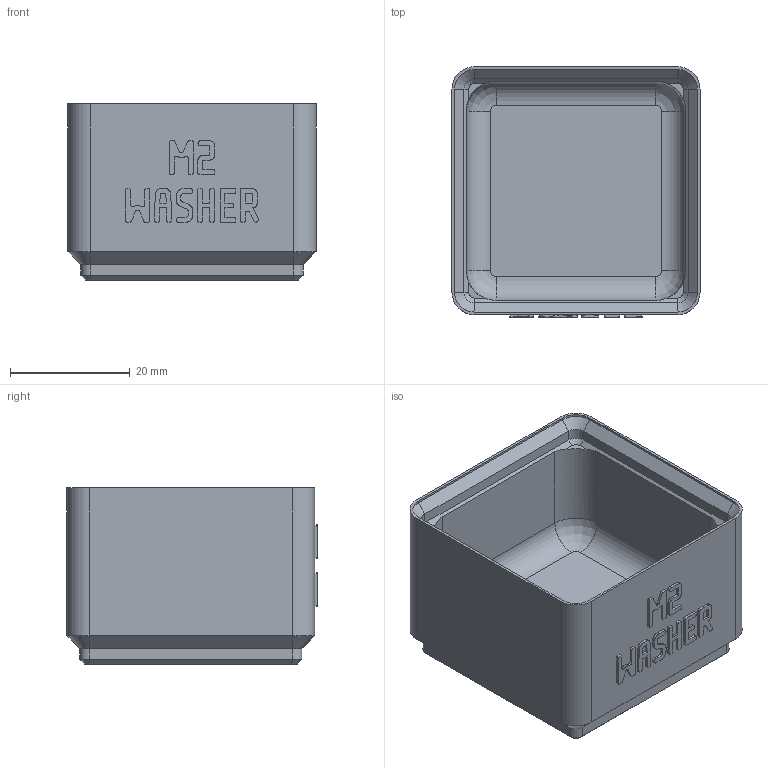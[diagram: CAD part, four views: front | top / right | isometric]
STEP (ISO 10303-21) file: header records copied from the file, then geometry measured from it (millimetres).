
FILE_DESCRIPTION(('Open CASCADE Model'),'2;1');
FILE_NAME('Open CASCADE Shape Model','2026-11-03T10:23:43',('Author'),( 'Open CASCADE'),'Open CASCADE STEP processor 8.0','build123d', 'Unknown');
FILE_SCHEMA(('AUTOMOTIVE_DESIGN { 1 0 10303 214 1 1 1 1 }'));
Products named in the file (1): COMPOUND
Bounding box: 41.5 x 41.9 x 29.5 mm (x, y, z)
Volume: 18948.4 mm3; surface area: 10665.1 mm2
Topology: 1 solids, 1 shells, 946 faces, 2743 edges, 1810 vertices
Faces by surface type: plane 902, cylinder 24, cone 16, revolution 4
Entity records: 64370 total; most frequent: CARTESIAN_POINT 13040, DIRECTION 8273, LINE 6227, VECTOR 6227, ORIENTED_EDGE 5486, PCURVE 5486, DEFINITIONAL_REPRESENTATION 5486, EDGE_CURVE 2743
